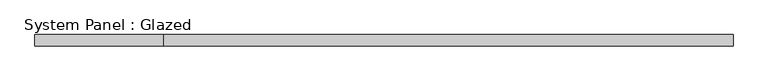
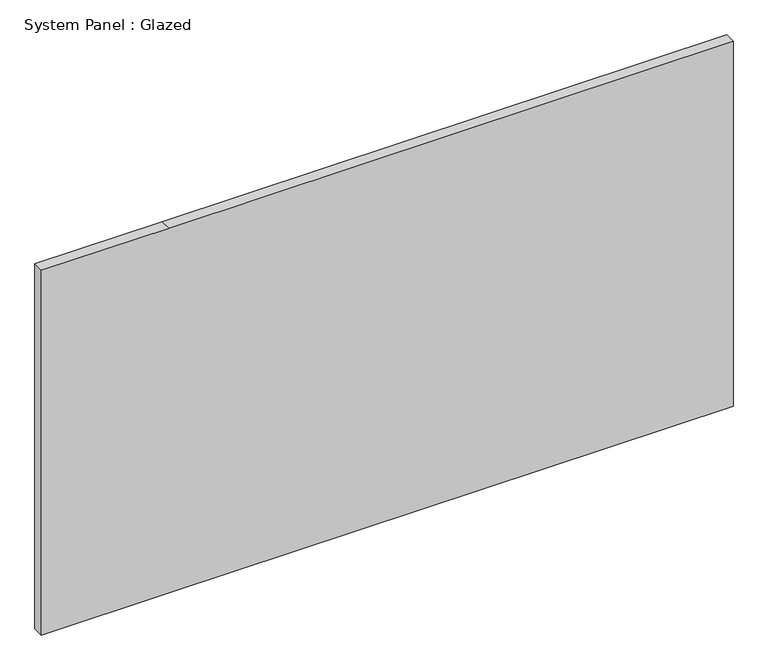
"""IFC4 building model written with IfcOpenShell, lengths in millimetres: plate geometry, System Panel : Glazed."""

import ifcopenshell
import ifcopenshell.guid

model = None  # the IFC model being written
_history = None  # IfcOwnerHistory: only IFC2X3 demands one
_inside = {}  # id of a spatial element -> (the spatial element, [elements in it])
_under = {}  # id of a project, library or spatial element -> (it, [spatial elements below it])
_declared = {}  # id of a project -> (the project, [libraries it declares])
_typed = {}  # id of a type object -> (the type object, [elements of that type])
_made_of = {}  # id of a material, layer set ... -> (it, [elements and type objects made of it])


def new_model(schema):
    """Start an empty IFC model of exactly this schema.

    Asked for "IFC4X3", IfcOpenShell would pick the latest addendum, in which some entities
    have other attributes; the version numbers below select the first issue.
    IFC2X3 requires an IfcOwnerHistory on every rooted entity: one is made here for all.
    """
    global model, _history
    if schema == "IFC4X3":
        model = ifcopenshell.file(schema_version=(4, 3, 0, 0))
    else:
        model = ifcopenshell.file(schema=schema)
    _inside.clear()
    _under.clear()
    _declared.clear()
    _typed.clear()
    _made_of.clear()
    _history = None
    if model.schema == "IFC2X3":
        org = make("IfcOrganization", Name="unknown")
        user = make(
            "IfcPersonAndOrganization",
            ThePerson=make("IfcPerson", FamilyName="unknown"),
            TheOrganization=org,
        )
        app = make(
            "IfcApplication",
            ApplicationDeveloper=org,
            Version="unknown",
            ApplicationFullName="unknown",
            ApplicationIdentifier="unknown",
        )
        _history = make(
            "IfcOwnerHistory",
            OwningUser=user,
            OwningApplication=app,
            ChangeAction="ADDED",
            CreationDate=0,
        )
    return model


def make(cls, **values):
    """One entity of the class cls with the attributes given. An attribute that is None is left unset."""
    return model.create_entity(
        cls, **{name: value for name, value in values.items() if value is not None}
    )


def rooted(cls, **values):
    """An entity with a GlobalId (a new one), such as an element, a storey or a relation."""
    return make(cls, GlobalId=ifcopenshell.guid.new(), OwnerHistory=_history, **values)


def si_unit(unit_type, name, prefix=None):
    """IfcSIUnit, for example si_unit("LENGTHUNIT", "METRE", prefix="MILLI")."""
    return make("IfcSIUnit", UnitType=unit_type, Prefix=prefix, Name=name)


def assignment(units):
    """IfcUnitAssignment: the units of a project."""
    return None if units is None else make("IfcUnitAssignment", Units=units)


def point(xyz):
    """IfcCartesianPoint."""
    return None if xyz is None else make("IfcCartesianPoint", Coordinates=xyz)


def direction(xyz):
    """IfcDirection."""
    return None if xyz is None else make("IfcDirection", DirectionRatios=xyz)


def frame(location, z_axis=None, x_axis=None):
    """IfcAxis2Placement3D, a coordinate frame: its origin and axes. An axis left out is left unset."""
    return make(
        "IfcAxis2Placement3D",
        Location=point(location),
        Axis=direction(z_axis),
        RefDirection=direction(x_axis),
    )


def origin():
    """The frame at (0, 0, 0) with its axes left unset."""
    return frame((0.0, 0.0, 0.0))


def place(relative_to, where):
    """IfcLocalPlacement: puts the frame where relative to a parent placement (None: the world)."""
    return make(
        "IfcLocalPlacement", PlacementRelTo=relative_to, RelativePlacement=where
    )


def context(
    kind, dimensions, precision=None, world=None, true_north=None, identifier=None
):
    """IfcGeometricRepresentationContext, for example the 3D "Model" context."""
    return make(
        "IfcGeometricRepresentationContext",
        ContextIdentifier=identifier,
        ContextType=kind,
        CoordinateSpaceDimension=dimensions,
        Precision=precision,
        WorldCoordinateSystem=world,
        TrueNorth=true_north,
    )


def project(units=None, contexts=None):
    """IfcProject with its units and contexts."""
    return rooted(
        "IfcProject",
        Name="project",
        RepresentationContexts=contexts,
        UnitsInContext=assignment(units),
    )


def spatial(cls, under=None, at=None, **own):
    """A site, building, storey or space (cls), placed at a placement, below another one or the project."""
    s = rooted(cls, ObjectPlacement=at, **own)
    if under is not None:
        _under.setdefault(under.id(), (under, []))[1].append(s)
    return s


def polyline(points):
    """IfcPolyline through the points."""
    return make("IfcPolyline", Points=[point(p) for p in points])


def outline(outer, holes=None, kind="AREA"):
    """IfcArbitraryClosedProfileDef: a profile drawn as a closed curve; with holes, ...WithVoids."""
    if holes is None:
        return make("IfcArbitraryClosedProfileDef", ProfileType=kind, OuterCurve=outer)
    return make(
        "IfcArbitraryProfileDefWithVoids",
        ProfileType=kind,
        OuterCurve=outer,
        InnerCurves=holes,
    )


def extrude(swept, where, along, depth):
    """IfcExtrudedAreaSolid: the profile swept, set in the frame where, extruded along a direction by depth."""
    return make(
        "IfcExtrudedAreaSolid",
        SweptArea=swept,
        Position=where,
        ExtrudedDirection=direction(along),
        Depth=depth,
    )


def shape(context_of_items, identifier, shape_type, items):
    """IfcShapeRepresentation: the items that make up one representation, for example the "Body"."""
    return make(
        "IfcShapeRepresentation",
        ContextOfItems=context_of_items,
        RepresentationIdentifier=identifier,
        RepresentationType=shape_type,
        Items=items,
    )


def source(mapping_origin, context_of_items, identifier, shape_type, items):
    """IfcRepresentationMap: a shape defined once, which mapped items show again and again."""
    return make(
        "IfcRepresentationMap",
        MappingOrigin=mapping_origin,
        MappedRepresentation=shape(context_of_items, identifier, shape_type, items),
    )


def transform(
    local_origin,
    x_axis=None,
    y_axis=None,
    z_axis=None,
    scale=None,
    scale2=None,
    scale3=None,
    uniform=True,
):
    """IfcCartesianTransformationOperator3D, or its non-uniform kind. x_axis, y_axis, z_axis: its Axis1, 2, 3."""
    if uniform:
        return make(
            "IfcCartesianTransformationOperator3D",
            Axis1=direction(x_axis),
            Axis2=direction(y_axis),
            LocalOrigin=point(local_origin),
            Scale=scale,
            Axis3=direction(z_axis),
        )
    return make(
        "IfcCartesianTransformationOperator3DnonUniform",
        Axis1=direction(x_axis),
        Axis2=direction(y_axis),
        LocalOrigin=point(local_origin),
        Scale=scale,
        Axis3=direction(z_axis),
        Scale2=scale2,
        Scale3=scale3,
    )


def mapped(mapping_source, mapping_target):
    """IfcMappedItem: shows the shape of a source again, moved by a transform."""
    return make(
        "IfcMappedItem", MappingSource=mapping_source, MappingTarget=mapping_target
    )


def made_of(thing, what):
    """Note that an element or type object is made of a material, layer set ...; save() writes the relation."""
    if what is not None:
        _made_of.setdefault(what.id(), (what, []))[1].append(thing)
    return thing


def element(
    cls,
    number,
    at=None,
    inside=None,
    cuts=None,
    type_object=None,
    material=None,
    context=None,
    identifier="Body",
    shape_type=None,
    held_by="IfcProductDefinitionShape",
    body=None,
    shapes=None,
    **own,
):
    """One element of the class cls, such as IfcWall. Its Tag is "e" and its number.

    at: its placement. inside: the storey or other place that contains it. cuts: it is an
    opening in that element (IfcRelVoidsElement). A single representation is given by context,
    identifier, shape_type and body (its items); several are given by shapes. held_by: the class
    of the entity that holds the representations. save() writes the other relations.
    """
    e = rooted(cls, Tag="e%d" % number, ObjectPlacement=at, **own)
    if body is not None:
        shapes = [shape(context, identifier, shape_type, body)]
    if shapes is not None:
        e.Representation = make(held_by, Representations=shapes)
    if inside is not None:
        _inside.setdefault(inside.id(), (inside, []))[1].append(e)
    if cuts is not None:
        rooted(
            "IfcRelVoidsElement", RelatingBuildingElement=cuts, RelatedOpeningElement=e
        )
    if type_object is not None:
        _typed.setdefault(type_object.id(), (type_object, []))[1].append(e)
    return made_of(e, material)


def aggregate(whole, parts):
    """IfcRelAggregates: a whole, such as a stair, and the parts it consists of."""
    return rooted("IfcRelAggregates", RelatingObject=whole, RelatedObjects=parts)


def save(model, path):
    """Write the relations noted so far, then the file.

    IfcRelAggregates (storeys below a building ...), IfcRelContainedInSpatialStructure (elements
    in a storey), IfcRelDefinesByType, IfcRelAssociatesMaterial and IfcRelDeclares: one each for
    every whole, place, type object, material and project.
    """
    for whole, parts in _under.values():
        aggregate(whole, parts)
    for where, things in _inside.values():
        rooted(
            "IfcRelContainedInSpatialStructure",
            RelatedElements=things,
            RelatingStructure=where,
        )
    for kind, things in _typed.values():
        rooted("IfcRelDefinesByType", RelatedObjects=things, RelatingType=kind)
    for what, things in _made_of.values():
        rooted("IfcRelAssociatesMaterial", RelatedObjects=things, RelatingMaterial=what)
    for by, libraries in _declared.values():
        rooted("IfcRelDeclares", RelatingContext=by, RelatedDefinitions=libraries)
    model.write(path)


def system_panel_glazed_c6b886e5(model_context):
    return source(origin(), model_context, "Body", "SweptSolid", [
        extrude(outline(polyline([(0.0, -774.7), (0.0, -488.95), (0.0, 774.7), (863.6, 774.7), (863.6, -488.95), (863.6, -774.7), (0.0, -774.7)])), frame((0.0, 19.05, 0.0), z_axis=(0.0, 1.0, 0.0), x_axis=(0.0, 0.0, 1.0)), (0.0, 0.0, 1.0), 25.4),
    ])


if __name__ == "__main__":
    model = new_model("IFC4")
    model_context = context("Model", 3, world=origin())
    ifc_project = project(units=[si_unit("LENGTHUNIT", "METRE", prefix="MILLI")], contexts=[model_context])
    site = spatial("IfcSite", under=ifc_project)
    building = spatial("IfcBuilding", under=site)
    placement = place(None, origin())
    system_panel_glazed_shape = system_panel_glazed_c6b886e5(model_context)
    element("IfcPlate", 1, ObjectType="System Panel : Glazed", at=placement, inside=building, context=model_context, shape_type="MappedRepresentation", body=[
        mapped(system_panel_glazed_shape, transform((0.0, 0.0, 0.0), x_axis=(1.0, 0.0, 0.0), y_axis=(0.0, 1.0, 0.0), z_axis=(0.0, 0.0, 1.0))),
    ])
    save(model, "model.ifc")
